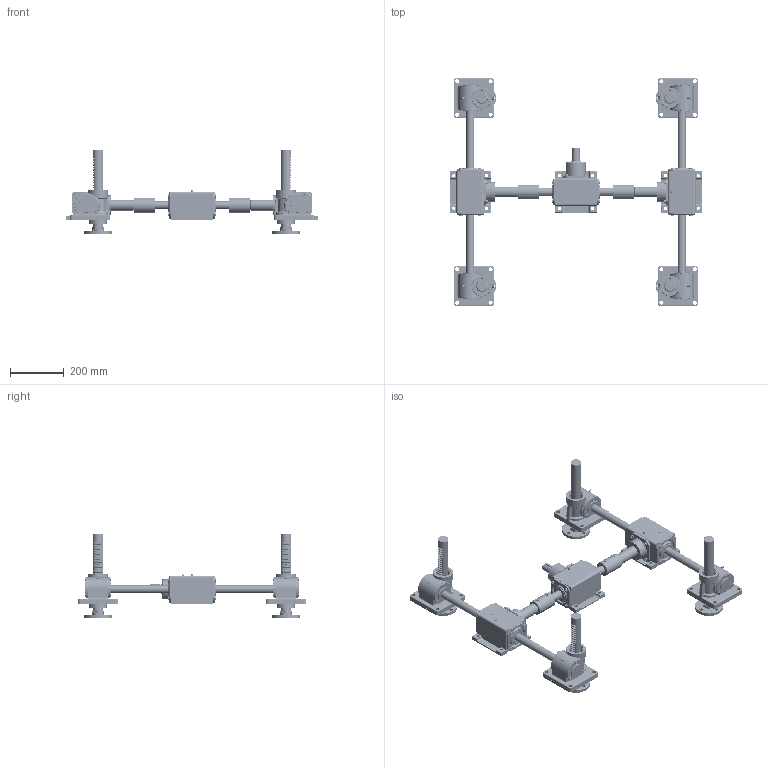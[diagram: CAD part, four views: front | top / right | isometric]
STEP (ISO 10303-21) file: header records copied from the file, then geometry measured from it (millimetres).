
FILE_DESCRIPTION(('STEP AP203'),'1');
FILE_NAME('RJ20-4SUB10-700x700-350-150ST.stp','2022-07-06T02:12:29',(' '),(' '),'Spatial InterOp 3D',' ',' ');
FILE_SCHEMA(('CONFIG_CONTROL_DESIGN'));
Length unit declared in the file: millimetre
Products named in the file (159): RJ20-4SUB10-700x700-350-150ST; ASSEM1; Flange.1-Part; Flange.1; Joint.1; Nut.1; Flange.2-Part; Flange.2; Joint.2; Nut.2; Flange.3-Part; Flange.3; Joint.3; Nut.3; Flange.4-Part; Flange.4; Joint.4; Nut.4; Body.1-Part; Nipple; Bolt; Bearing Cover Open.1(RJ20); Bearing Cover Close.1(RJ20); Gear Box.1(RJ20); RJ05-4SCJ-610X600-100ST_CAP; LABEL-B.1; SUNIL __; 파트1; Body.2-Part; Pinion Gear; Bearing Cover Open.2(RJ20); Bearing Cover Close.2(RJ20); Gear Box.2(RJ20); Body.3-Part; Bearing Cover Open.3(RJ20); Bearing Cover Close.3(RJ20); Gear Box.3(RJ20); Body.4-Part; Bearing Cover Open.4(RJ20); Bearing Cover Close.4(RJ20)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
Assembly tree (159 placements, depth 7):
  RJ20-4SUB10-700x700-350-150ST
    ASSEM1
    (unnamed)
    (unnamed)
    (unnamed)
    Flange.1-Part
      Flange.1
      Joint.1
      Nut.1
    Flange.2-Part
      Flange.2
      Joint.2
      Nut.2
    Flange.3-Part
      Flange.3
      Joint.3
      Nut.3
    Flange.4-Part
      Flange.4
      Joint.4
      Nut.4
    Body.1-Part
      Nipple
      Bolt
      Bolt
      Bolt
      Bolt
      Bolt
      Bolt
      Bearing Cover Open.1(RJ20)
      Bearing Cover Close.1(RJ20)
      Gear Box.1(RJ20)
      SUNIL __
        RJ05-4SCJ-610X600-100ST_CAP
          LABEL-B.1
        파트1
    Body.2-Part
      Nipple
      Bolt
      Bolt
      Bolt
      Bolt
      Bolt
      Bolt
      Pinion Gear
      Bearing Cover Open.2(RJ20)
      Bearing Cover Close.2(RJ20)
      Gear Box.2(RJ20)
      SUNIL __
        RJ05-4SCJ-610X600-100ST_CAP
          LABEL-B.1
        파트1
    Body.3-Part
      Nipple
      Bolt
      Bolt
      Bolt
      Bolt
      Bolt
      Bolt
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Bounding box: 942 x 850 x 315 mm (x, y, z)
Volume: 9686906.6 mm3; surface area: 2069431.1 mm2
Topology: 188 solids, 188 shells, 15416 faces, 42755 edges, 28051 vertices
Faces by surface type: plane 12643, cylinder 1410, cone 564, torus 447, bspline 144, extrusion 127, revolution 49, sphere 32
Full cylindrical faces by diameter (mm): 3.113 x7, 6 x38, 6.6 x7, 8 x100, 8.5 x36, 9 x24, 11 x24, 12 x12, 13 x36, 14 x32, 28 x4, 30 x16, 30.5 x4, 32 x10, 35 x2, 40 x7, 42 x3, 43 x8, 44 x13, 45 x4, 46 x8, 50 x8, 52 x8, 53 x6, 54 x4, 55 x18, 56 x3, 58 x4, 61.4 x8, 62 x13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
Entity records: 506983 total; most frequent: CARTESIAN_POINT 109987, ORIENTED_EDGE 82634, DIRECTION 74973, EDGE_CURVE 41317, VECTOR 35888, LINE 35761, VERTEX_POINT 27706, AXIS2_PLACEMENT_3D 19518
